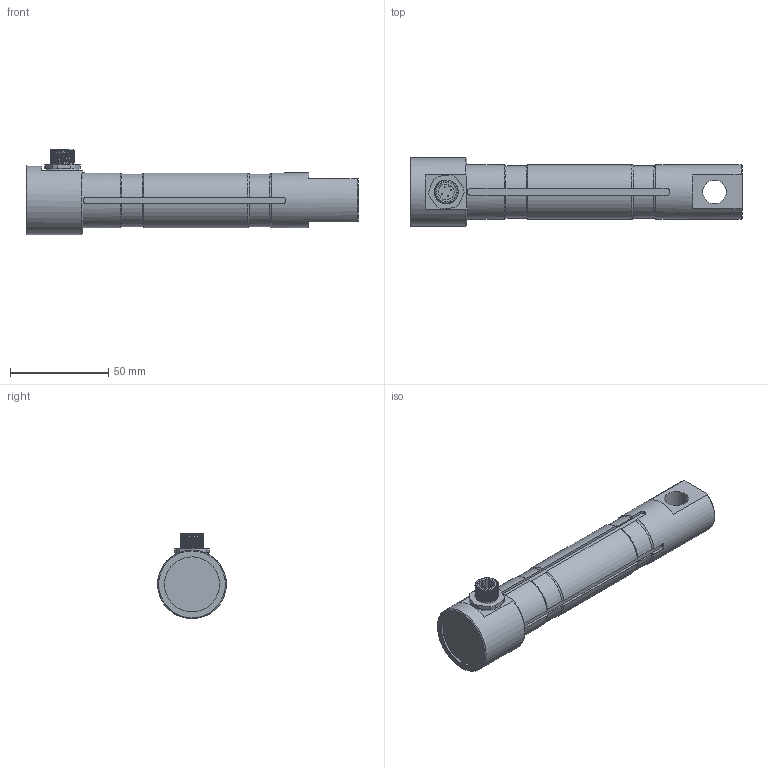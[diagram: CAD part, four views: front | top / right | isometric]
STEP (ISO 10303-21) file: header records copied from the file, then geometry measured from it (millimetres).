
FILE_DESCRIPTION(/* description */ ('Alibre Inc.'),/* implementation_level */ '2;1');
FILE_NAME(/* name */ 'export0',/* time_stamp */ '2016-04-04T16:30:55+02:00',/* author */ (''),/* organization */ (''),/* preprocessor_version */ 'ST-DEVELOPER v14',/* originating_system */ 'Alibre',/* authorisation */ '');
FILE_SCHEMA (('CONFIG_CONTROL_DESIGN'));
Length unit declared in the file: centimetre
Products named in the file (6): ID_1; ID_2; ID_3; ID_4
Bounding box: 169 x 35 x 43.51 mm (x, y, z)
Volume: 105224.3 mm3; surface area: 23024.9 mm2
Topology: 8 solids, 8 shells, 232 faces, 578 edges, 372 vertices
Faces by surface type: plane 108, cylinder 76, bspline 23, torus 17, cone 8
Full cylindrical faces by diameter (mm): 0.5 x8, 8 x2, 10 x4, 11.5 x1, 12 x1, 13 x1, 14.376 x1, 28 x3, 35 x1
Entity records: 17214 total; most frequent: CARTESIAN_POINT 11965, ORIENTED_EDGE 1084, DIRECTION 701, EDGE_CURVE 537, VERTEX_POINT 360, FACE_BOUND 280, EDGE_LOOP 279, AXIS2_PLACEMENT_3D 274
